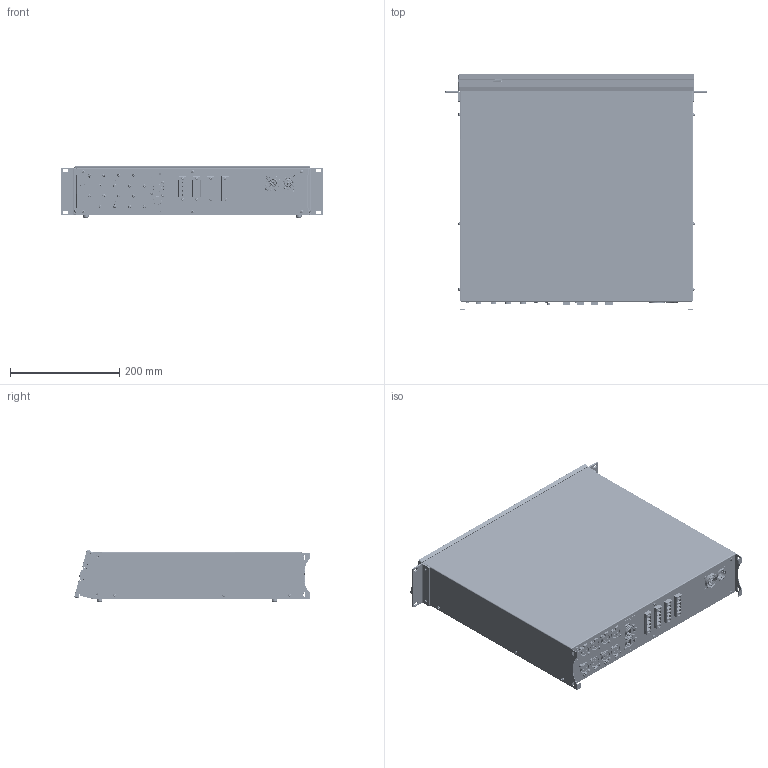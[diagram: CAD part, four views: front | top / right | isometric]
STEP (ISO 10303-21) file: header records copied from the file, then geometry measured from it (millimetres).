
FILE_DESCRIPTION(/* description */ (''),/* implementation_level */ '2;1');
FILE_NAME(/* name */ 'Kommader-KA208+',/* time_stamp */ '2026-03-16T12:58:51+01:00',/* author */ (''),/* organization */ (''),/* preprocessor_version */ 'ST-DEVELOPER v19.2',/* originating_system */ 'Rhino 8.24',/* authorisation */ '');
FILE_SCHEMA (('CONFIG_CONTROL_DESIGN'));
Products named in the file (14): Document; VTA03X10RTIN01; hexa csunk flathd screw_iso_ISO 14581 M3x10x10-C; hexalobular socket pan head_iso_ISO 14583 - M3 x 6 x 5 - 4.8-N; CONM04P762; PWRCONNTFMTRUE1; hex tapping screws_iso_Tapping Screw ISO 14585 - ST2.9 x 9.5-C-N; MCP139A16_01; MMFTT04X05; MCP145A02_04; VTM04X10STIN0; MCP145A04_01; MCP145A05_03; MCP145A06_01_MCP145A06ABS_01
Bounding box: 478.5 x 431.49 x 96 mm (x, y, z)
Volume: 893609.3 mm3; surface area: 1274026 mm2
Topology: 118 solids, 139 shells, 16625 faces, 46756 edges, 30675 vertices
Faces by surface type: plane 7773, cylinder 6777, bspline 2075
Entity records: 507303 total; most frequent: CARTESIAN_POINT 190716, ORIENTED_EDGE 77919, EDGE_CURVE 39081, DIRECTION 37816, VERTEX_POINT 26048, B_SPLINE_CURVE_WITH_KNOTS 25767, AXIS2_PLACEMENT_3D 25040, EDGE_LOOP 15930
